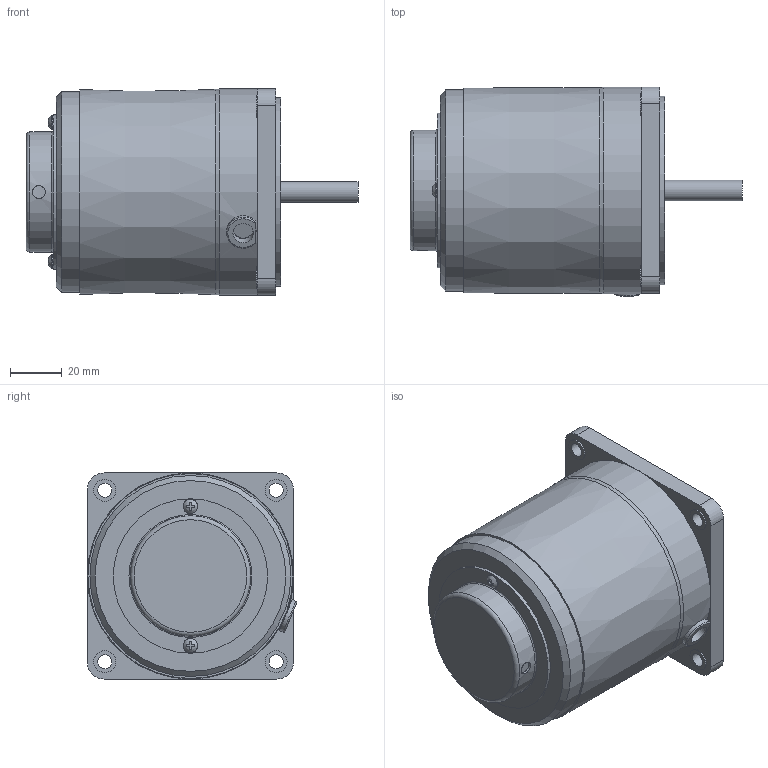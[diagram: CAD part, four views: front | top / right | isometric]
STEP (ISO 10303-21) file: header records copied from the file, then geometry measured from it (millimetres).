
FILE_DESCRIPTION((''),'2;1');
FILE_NAME('D:\STP파일\25W MOTOR\SPEED CONTROL TYPE\S8I15S-S.stp','2013-05-20T16:41:18',('leebh'),(''),'Autodesk Inventor 2011','Autodesk Inventor 2011','');
FILE_SCHEMA(('AUTOMOTIVE_DESIGN { 1 0 10303 214 1 1 1 1 }'));
Length unit declared in the file: millimetre
Products named in the file (1): 부품3
Bounding box: 128.8 x 81.2 x 80 mm (x, y, z)
Volume: 449546.1 mm3; surface area: 40206.2 mm2
Topology: 1 solids, 6 shells, 141 faces, 317 edges, 205 vertices
Faces by surface type: plane 85, cylinder 43, torus 9, bspline 2, cone 2
Full cylindrical faces by diameter (mm): 3 x2, 3.5 x2, 5 x1, 5.5 x4, 5.6 x2, 8 x2, 8.5 x4, 34 x1, 44.7 x1, 46.7 x1, 47.7 x1, 59.9 x1, 73 x1, 78 x1, 80 x1
Entity records: 4067 total; most frequent: CARTESIAN_POINT 958, DIRECTION 624, ORIENTED_EDGE 556, EDGE_CURVE 278, AXIS2_PLACEMENT_3D 237, EDGE_LOOP 209, VERTEX_POINT 203, VECTOR 150
